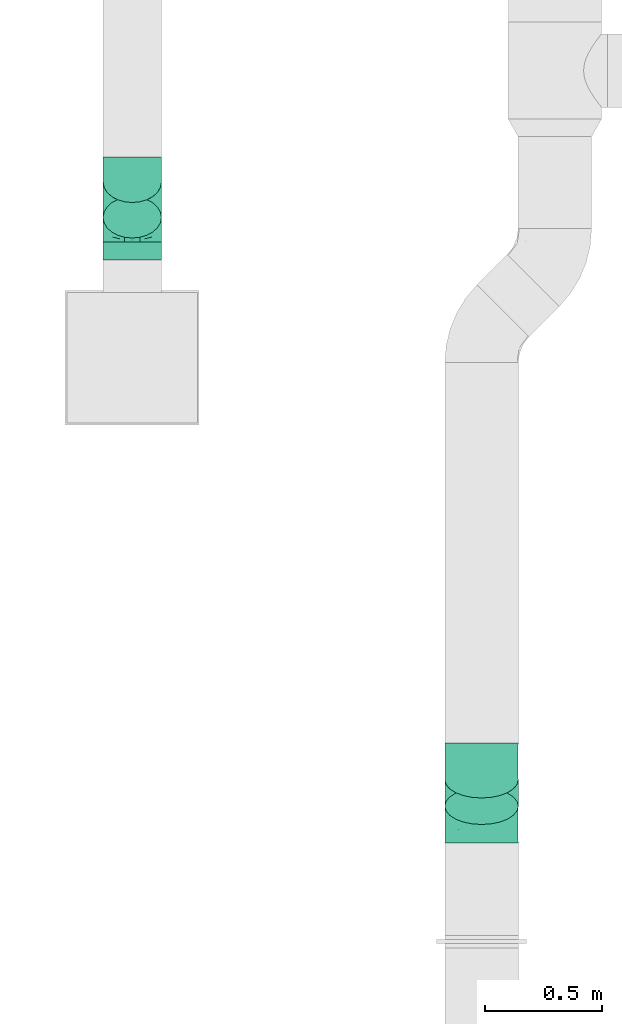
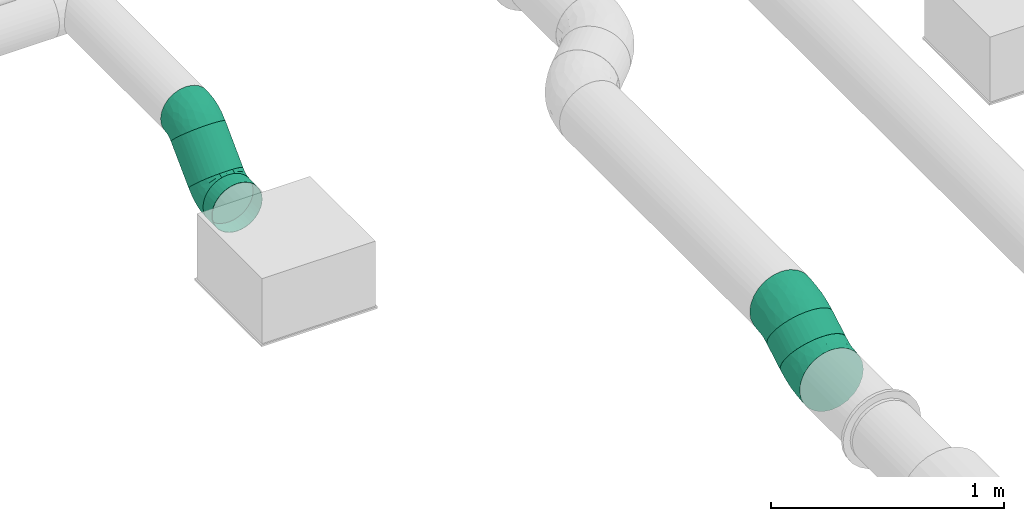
# One storey, part 20 of 63: 4 flow fittings, 3 flow segments.
"""IFC2X3 building model written with IfcOpenShell, lengths in millimetres."""

from ifc_helpers import new_model, entity, si_unit, converted_unit, derived_unit, direction, frame, origin_with_axes, origin_2d_with_axis, place, context, subcontext, project, spatial, hollow_circle, extrude, open_shell, surface_model, source, transform, mapped, type_object, element, save


model = new_model("IFC2X3")

# Units and contexts
model_context = context("Model", 3, precision=0.01, world=frame((0.0, 4.29681676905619e-09, 0.0)), true_north=direction((4.01073788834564e-13, 1.0)))
plan_context = context("Plan", 3, precision=0.01, world=frame((0.0, 4.29681676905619e-09, 0.0)), true_north=direction((4.01073788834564e-13, 1.0)))
body_context = subcontext(model_context, "Body", "Model", "MODEL_VIEW")
ifc_project = project(units=[converted_unit("PLANEANGLEUNIT", "DEGREE", entity("IfcPositiveLengthMeasure", 0.0174532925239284), si_unit("PLANEANGLEUNIT", "RADIAN"), dimensions=[0, 0, 0, 0, 0, 0, 0]), si_unit("AREAUNIT", "SQUARE_METRE"), si_unit("LENGTHUNIT", "METRE", prefix="MILLI"), si_unit("MASSUNIT", "GRAM", prefix="KILO"), si_unit("POWERUNIT", "WATT"), si_unit("PRESSUREUNIT", "PASCAL"), si_unit("FORCEUNIT", "NEWTON", prefix="KILO"), si_unit("ELECTRICVOLTAGEUNIT", "VOLT"), si_unit("ELECTRICCURRENTUNIT", "AMPERE"), si_unit("THERMODYNAMICTEMPERATUREUNIT", "DEGREE_CELSIUS"), si_unit("TIMEUNIT", "SECOND"), si_unit("VOLUMEUNIT", "CUBIC_METRE"), derived_unit("LINEARVELOCITYUNIT", [(si_unit("LENGTHUNIT", "METRE"), 1), (si_unit("TIMEUNIT", "SECOND"), -1)]), derived_unit("VOLUMETRICFLOWRATEUNIT", [(si_unit("VOLUMEUNIT", "CUBIC_METRE"), 1), (si_unit("TIMEUNIT", "SECOND"), -1)]), derived_unit("THERMALTRANSMITTANCEUNIT", [(si_unit("POWERUNIT", "WATT"), 1), (si_unit("THERMODYNAMICTEMPERATUREUNIT", "KELVIN"), -1), (si_unit("AREAUNIT", "SQUARE_METRE"), -1)]), derived_unit("SOUNDPRESSUREUNIT", [(si_unit("PRESSUREUNIT", "PASCAL"), 1)])], contexts=[model_context, plan_context])

# Site, building, storey
site_placement = place(None, frame((0.0, -4.29681676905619e-09, 0.0), z_axis=(0.0, 0.0, 1.0), x_axis=(1.0, 0.0, 0.0)))
site = spatial("IfcSite", under=ifc_project, at=site_placement, CompositionType="ELEMENT")
building_placement = place(site_placement, frame((0.0, 4.29681676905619e-09, 0.0), z_axis=(0.0, 0.0, 1.0), x_axis=(1.0, 0.0, 0.0)))
building = spatial("IfcBuilding", under=site, at=building_placement, Name="mc-building", CompositionType="ELEMENT")
storey_placement = place(building_placement, frame((0.0, 0.0, 210900.0), z_axis=(0.0, 0.0, 1.0), x_axis=(1.0, 0.0, 0.0)))
storey = spatial("IfcBuildingStorey", under=building, at=storey_placement, Name="Nivå F", CompositionType="ELEMENT", Elevation=210900.0)

# Flow fittings
duct_fitting_type_1 = type_object("IfcDuctFittingType", Name="magicirc_elbow_short_001", PredefinedType="BEND")
shared_shape_1 = source(origin_with_axes(), body_context, "Body", "SurfaceModel", [
    surface_model("IfcShellBasedSurfaceModel", [(-62.13204, 0.0, -125.0), (-62.13204, -32.35238, -120.74073), (-62.13204, 32.35238, -120.74073), (-62.13204, 62.5, -108.25318), (-62.13204, 88.38835, -88.38835), (-62.13204, 108.25318, -62.5), (-62.13204, 120.74073, -32.35238), (-62.13204, -62.5, -108.25318), (-62.13204, -88.38835, -88.38835), (-62.13204, -125.0, 0.0), (-62.13204, -108.25318, -62.5), (-62.13204, -120.74073, -32.35238), (-62.13204, 125.0, 0.0), (-62.13204, -120.74073, 32.35238), (-62.13204, 120.74073, 32.35238), (-62.13204, 108.25318, 62.5), (-62.13204, 32.35238, 120.74073), (-62.13204, 62.5, 108.25318), (-62.13204, 88.38835, 88.38835), (-62.13204, -88.38835, 88.38835), (-62.13204, -108.25318, 62.5), (-62.13204, -32.35238, 120.74073), (-62.13204, 0.0, 125.0), (-62.13204, -62.5, 108.25318), (-32.61257, 120.48054, -62.5), (-41.44261, 129.31057, -32.35238), (-44.45436, 132.32233, 0.0), (-41.44261, 129.31057, 32.35238), (-32.61257, 120.48054, 62.5), (-39.32094, -100.77129, 72.52866), (-25.3983, -115.58366, 40.92131), (-9.38975, -99.61313, 67.6303), (-40.71594, 99.20513, 81.38635), (-18.56602, 106.43398, 88.38835), (6.93461, -16.74165, 121.22697), (-29.92798, -19.88945, 122.8817), (-17.69423, -50.99343, 111.83063), (-28.63512, 12.8945, 124.68547), (-43.55871, 45.16564, 117.17454), (-19.1971, 46.34588, 119.14586), (20.11216, -107.05726, 35.36285), (37.22525, -89.79474, 60.1728), (-42.64489, 65.81413, 107.6176), (18.18237, -43.89615, 109.72868), (-48.14682, 116.23669, 52.46898), (11.13029, 29.36587, 124.68547), (-8.4822, -119.71595, 0.0), (17.31186, -111.89141, 0.0), (-27.44697, 77.92943, 103.54984), (-1.13628, 62.73759, 117.17454), (-0.26019, 88.12816, 108.25318), (29.58221, -71.41779, 87.09722), (2.27359, -83.55864, 84.32151), (46.20365, -49.09439, 98.73245), (43.10591, -104.06687, 0.0), (-28.63512, 12.89449, -124.68547), (-29.92797, -19.88945, -122.8817), (11.13029, 29.36586, -124.68547), (-19.1971, 46.34588, -119.14586), (-43.55871, 45.16564, -117.17454), (-35.69649, 74.51237, -103.54983), (-25.3983, -115.58366, -40.92131), (-48.14682, 116.23669, -52.46898), (-39.32094, -100.77129, -72.52866), (-16.38313, 76.69211, -107.6176), (-18.56602, 106.43398, -88.38835), (-0.26019, 88.12816, -108.25318), (-17.69423, -50.99343, -111.83063), (6.93461, -16.74165, -121.22697), (-1.13628, 62.73759, -117.17454), (48.5695, -23.54609, -111.83063), (35.22623, 7.0983, -122.8817), (-9.38975, -99.61313, -67.63031), (2.04406, -67.38589, -98.73245), (29.58221, -71.41778, -87.09723), (43.93399, 43.934, -125.0), (106.43399, -18.56599, 88.38835), (132.32235, -44.45434, 0.0), (21.05739, 66.81058, -120.74073), (88.12817, -0.26017, 108.25318), (66.81057, 21.05741, -120.74073), (106.43399, -18.56599, -88.38835), (88.12817, -0.26017, -108.25318), (129.31058, -41.44258, -32.35238), (120.48055, -32.61255, -62.5), (21.05739, 66.81058, 120.74073), (43.93399, 43.934, 125.0), (129.31058, -41.44258, 32.35238), (120.48055, -32.61255, 62.5), (66.81057, 21.05741, 120.74073), (-31.08246, -121.94188, 0.0), (35.22622, 7.09831, 122.8817), (-25.98217, -78.69805, 94.74512), (-3.43913, -67.17105, 100.02812), (77.07669, -63.79755, 67.6303), (61.9235, -89.5906, 35.66991), (-52.56496, 126.90301, 0.0), (99.68931, -63.77067, 40.92131), (48.5695, -23.54609, 111.83062), (99.06018, -43.45194, 72.52866), (74.0201, -37.27574, 94.74512), (108.20455, -64.2473, 0.0), (90.64979, -78.65413, 0.0), (66.87785, -91.36049, 0.0), (19.56361, -107.13664, -35.66991), (-41.35812, 98.93914, -81.38635), (-25.98217, -78.69805, -94.74512), (61.47949, -89.92235, -35.36285), (18.18239, -43.89616, -109.72867), (57.47721, -60.69254, -84.32152), (74.02009, -37.27574, -94.74513), (77.07669, -63.79755, -67.6303), (37.17223, -89.81669, -60.17279), (99.68931, -63.77066, -40.92131), (99.06018, -43.45194, -72.52866), (49.92893, -45.06527, -100.02812)], [open_shell([[[0, 1, 2]], [[3, 2, 4]], [[1, 5, 2]], [[4, 2, 5]], [[5, 1, 6]], [[7, 8, 1]], [[9, 1, 8]], [[10, 11, 8]], [[9, 8, 11]], [[9, 6, 1]], [[9, 12, 6]], [[12, 13, 14]], [[15, 14, 16]], [[16, 17, 18]], [[15, 16, 18]], [[16, 14, 19]], [[20, 19, 13]], [[19, 14, 13]], [[21, 22, 23]], [[19, 23, 22]], [[19, 22, 16]], [[9, 13, 12]], [[24, 25, 26]], [[26, 27, 28]], [[29, 30, 31]], [[32, 33, 28]], [[30, 20, 13]], [[34, 35, 36]], [[21, 35, 22]], [[21, 23, 36]], [[16, 22, 37]], [[38, 37, 39]], [[31, 40, 41]], [[42, 17, 38]], [[38, 17, 16]], [[43, 34, 36]], [[35, 37, 22]], [[14, 15, 44]], [[42, 32, 18]], [[29, 19, 20]], [[40, 31, 30]], [[37, 45, 39]], [[45, 37, 34]], [[40, 46, 47]], [[42, 18, 17]], [[33, 32, 48]], [[27, 44, 28]], [[48, 39, 49]], [[33, 48, 50]], [[44, 32, 28]], [[18, 32, 15]], [[36, 35, 21]], [[37, 35, 34]], [[41, 51, 52]], [[14, 44, 27]], [[32, 44, 15]], [[37, 38, 16]], [[42, 39, 48]], [[39, 42, 38]], [[42, 48, 32]], [[48, 49, 50]], [[45, 49, 39]], [[30, 29, 20]], [[53, 43, 51]], [[46, 40, 30]], [[47, 54, 40]], [[41, 52, 31]], [[0, 2, 55]], [[56, 1, 0]], [[57, 55, 58]], [[59, 60, 58]], [[10, 61, 11]], [[3, 4, 60]], [[62, 6, 25]], [[61, 10, 63]], [[64, 65, 66]], [[1, 56, 67]], [[8, 63, 10]], [[7, 1, 67]], [[56, 55, 68]], [[25, 24, 62]], [[69, 64, 66]], [[2, 3, 59]], [[59, 55, 2]], [[69, 57, 58]], [[70, 68, 71]], [[55, 57, 68]], [[55, 56, 0]], [[67, 56, 68]], [[57, 71, 68]], [[6, 62, 5]], [[60, 59, 3]], [[55, 59, 58]], [[64, 58, 60]], [[58, 64, 69]], [[61, 63, 72]], [[72, 73, 74]], [[75, 76, 77]], [[66, 26, 78]], [[78, 79, 75]], [[24, 66, 65]], [[66, 24, 26]], [[80, 81, 82]], [[80, 75, 81]], [[81, 83, 84]], [[83, 81, 77]], [[75, 77, 81]], [[26, 28, 50]], [[50, 85, 26]], [[50, 28, 33]], [[26, 85, 86]], [[87, 76, 88]], [[77, 76, 87]], [[79, 86, 89]], [[76, 75, 79]], [[86, 79, 26]], [[78, 26, 79]], [[90, 46, 30]], [[91, 45, 34]], [[23, 92, 36]], [[52, 93, 92]], [[94, 41, 95]], [[23, 19, 92]], [[96, 14, 27]], [[40, 95, 41]], [[96, 12, 14]], [[94, 95, 97]], [[40, 54, 95]], [[98, 89, 91]], [[99, 88, 76]], [[89, 98, 79]], [[88, 99, 97]], [[88, 97, 87]], [[98, 100, 79]], [[53, 94, 100]], [[97, 101, 87]], [[85, 50, 49]], [[41, 94, 51]], [[30, 13, 90]], [[26, 96, 27]], [[95, 102, 97]], [[95, 54, 103]], [[86, 91, 89]], [[86, 85, 45]], [[45, 85, 49]], [[34, 43, 98]], [[29, 92, 19]], [[79, 100, 76]], [[52, 92, 31]], [[95, 103, 102]], [[53, 100, 98]], [[99, 100, 94]], [[45, 91, 86]], [[98, 91, 34]], [[13, 9, 90]], [[101, 97, 102]], [[101, 77, 87]], [[92, 29, 31]], [[100, 99, 76]], [[97, 99, 94]], [[93, 36, 92]], [[51, 43, 93]], [[51, 93, 52]], [[43, 36, 93]], [[43, 53, 98]], [[94, 53, 51]], [[104, 46, 61]], [[78, 75, 57]], [[4, 105, 60]], [[73, 72, 106]], [[80, 82, 70]], [[61, 90, 11]], [[83, 77, 101]], [[106, 7, 67]], [[107, 102, 103]], [[104, 54, 47]], [[72, 104, 61]], [[106, 8, 7]], [[68, 108, 67]], [[6, 12, 96]], [[109, 110, 111]], [[96, 26, 25]], [[112, 72, 74]], [[113, 83, 101]], [[82, 81, 110]], [[113, 84, 83]], [[64, 105, 65]], [[4, 5, 105]], [[114, 81, 84]], [[110, 109, 115]], [[70, 82, 110]], [[66, 78, 69]], [[75, 80, 71]], [[111, 114, 113]], [[108, 68, 70]], [[113, 101, 102]], [[107, 104, 112]], [[107, 111, 113]], [[111, 107, 112]], [[71, 57, 75]], [[104, 47, 46]], [[96, 25, 6]], [[114, 110, 81]], [[107, 54, 104]], [[73, 106, 67]], [[63, 106, 72]], [[62, 105, 5]], [[65, 105, 24]], [[70, 71, 80]], [[90, 61, 46]], [[90, 9, 11]], [[72, 112, 104]], [[112, 74, 109]], [[105, 62, 24]], [[57, 69, 78]], [[64, 60, 105]], [[113, 114, 84]], [[110, 114, 111]], [[106, 63, 8]], [[115, 70, 110]], [[73, 108, 74]], [[102, 107, 113]], [[103, 54, 107]], [[112, 109, 111]], [[74, 108, 115]], [[74, 115, 109]], [[108, 70, 115]], [[108, 73, 67]]])]),
])
flow_fitting_1_placement = place(storey_placement, frame((526901.29276, 451341.47303, 3960.01264), z_axis=(0.999999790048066, -0.000647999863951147, 0.0), x_axis=(0.000647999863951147, 0.999999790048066, 0.0)))
element("IfcFlowFitting", 1, at=flow_fitting_1_placement, inside=storey, type_object=duct_fitting_type_1, Name="magicirc_elbow_short_001", context=body_context, shape_type="MappedRepresentation", body=[
    mapped(shared_shape_1, transform((0.0, 0.0, 0.0), scale=1.0)),
])
shared_shape_2 = source(origin_with_axes(), body_context, "Body", "SurfaceModel", [
    surface_model("IfcShellBasedSurfaceModel", [(-62.13204, 0.0, -125.0), (-62.13204, -32.35238, -120.74073), (-62.13204, 32.35238, -120.74073), (-62.13204, 62.5, -108.25318), (-62.13204, 88.38835, -88.38835), (-62.13204, 108.25318, -62.5), (-62.13204, 120.74073, -32.35238), (-62.13204, -62.5, -108.25318), (-62.13204, -88.38835, -88.38835), (-62.13204, -125.0, 0.0), (-62.13204, -108.25318, -62.5), (-62.13204, -120.74073, -32.35238), (-62.13204, 125.0, 0.0), (-62.13204, -120.74073, 32.35238), (-62.13204, 120.74073, 32.35238), (-62.13204, 108.25318, 62.5), (-62.13204, 32.35238, 120.74073), (-62.13204, 62.5, 108.25318), (-62.13204, 88.38835, 88.38835), (-62.13204, -88.38835, 88.38835), (-62.13204, -108.25318, 62.5), (-62.13204, -32.35238, 120.74073), (-62.13204, 0.0, 125.0), (-62.13204, -62.5, 108.25318), (-32.61257, 120.48054, -62.5), (-41.44261, 129.31057, -32.35238), (-44.45436, 132.32233, 0.0), (-41.44261, 129.31057, 32.35238), (-32.61257, 120.48054, 62.5), (-39.32094, -100.77129, 72.52866), (-25.3983, -115.58366, 40.92131), (-9.38975, -99.61313, 67.6303), (-40.71594, 99.20513, 81.38635), (-18.56602, 106.43398, 88.38835), (6.93461, -16.74165, 121.22697), (-29.92798, -19.88945, 122.8817), (-17.69423, -50.99343, 111.83063), (-28.63512, 12.8945, 124.68547), (-43.55871, 45.16564, 117.17454), (-19.1971, 46.34588, 119.14586), (20.11216, -107.05726, 35.36285), (37.22525, -89.79474, 60.1728), (-42.64489, 65.81413, 107.6176), (18.18237, -43.89615, 109.72868), (-48.14682, 116.23669, 52.46898), (11.13029, 29.36587, 124.68547), (-8.4822, -119.71595, 0.0), (17.31186, -111.89141, 0.0), (-27.44697, 77.92943, 103.54984), (-1.13628, 62.73759, 117.17454), (-0.26019, 88.12816, 108.25318), (29.58221, -71.41779, 87.09722), (2.27359, -83.55864, 84.32151), (46.20365, -49.09439, 98.73245), (43.10591, -104.06687, 0.0), (-28.63512, 12.89449, -124.68547), (-29.92797, -19.88945, -122.8817), (11.13029, 29.36586, -124.68547), (-19.1971, 46.34588, -119.14586), (-43.55871, 45.16564, -117.17454), (-35.69649, 74.51237, -103.54983), (-25.3983, -115.58366, -40.92131), (-48.14682, 116.23669, -52.46898), (-39.32094, -100.77129, -72.52866), (-16.38313, 76.69211, -107.6176), (-18.56602, 106.43398, -88.38835), (-0.26019, 88.12816, -108.25318), (-17.69423, -50.99343, -111.83063), (6.93461, -16.74165, -121.22697), (-1.13628, 62.73759, -117.17454), (48.5695, -23.54609, -111.83063), (35.22623, 7.0983, -122.8817), (-9.38975, -99.61313, -67.63031), (2.04406, -67.38589, -98.73245), (29.58221, -71.41778, -87.09723), (43.93399, 43.934, -125.0), (106.43399, -18.56599, 88.38835), (132.32235, -44.45434, 0.0), (21.05739, 66.81058, -120.74073), (88.12817, -0.26017, 108.25318), (66.81057, 21.05741, -120.74073), (106.43399, -18.56599, -88.38835), (88.12817, -0.26017, -108.25318), (129.31058, -41.44258, -32.35238), (120.48055, -32.61255, -62.5), (21.05739, 66.81058, 120.74073), (43.93399, 43.934, 125.0), (129.31058, -41.44258, 32.35238), (120.48055, -32.61255, 62.5), (66.81057, 21.05741, 120.74073), (-31.08246, -121.94188, 0.0), (35.22622, 7.09831, 122.8817), (77.07669, -63.79755, 67.6303), (61.9235, -89.5906, 35.66991), (-52.56496, 126.90301, 0.0), (99.68931, -63.77067, 40.92131), (48.5695, -23.54609, 111.83062), (99.06018, -43.45194, 72.52866), (74.0201, -37.27574, 94.74512), (108.20455, -64.2473, 0.0), (90.64979, -78.65413, 0.0), (66.87785, -91.36049, 0.0), (-3.43913, -67.17105, 100.02812), (19.56361, -107.13664, -35.66991), (-41.35812, 98.93914, -81.38635), (-25.98217, -78.69805, -94.74512), (61.47949, -89.92235, -35.36285), (18.18239, -43.89616, -109.72867), (57.47721, -60.69254, -84.32152), (74.02009, -37.27574, -94.74513), (77.07669, -63.79755, -67.6303), (37.17223, -89.81669, -60.17279), (99.68931, -63.77066, -40.92131), (99.06018, -43.45194, -72.52866), (49.92893, -45.06527, -100.02812), (-25.98217, -78.69805, 94.74512)], [open_shell([[[0, 1, 2]], [[3, 2, 4]], [[1, 5, 2]], [[4, 2, 5]], [[5, 1, 6]], [[7, 8, 1]], [[9, 1, 8]], [[10, 11, 8]], [[9, 8, 11]], [[9, 6, 1]], [[9, 12, 6]], [[12, 13, 14]], [[15, 14, 16]], [[16, 17, 18]], [[15, 16, 18]], [[16, 14, 19]], [[20, 19, 13]], [[19, 14, 13]], [[21, 22, 23]], [[19, 23, 22]], [[19, 22, 16]], [[9, 13, 12]], [[24, 25, 26]], [[26, 27, 28]], [[29, 30, 31]], [[32, 33, 28]], [[30, 20, 13]], [[34, 35, 36]], [[21, 35, 22]], [[21, 23, 36]], [[16, 22, 37]], [[38, 37, 39]], [[31, 40, 41]], [[42, 17, 38]], [[38, 17, 16]], [[43, 34, 36]], [[35, 37, 22]], [[14, 15, 44]], [[42, 32, 18]], [[29, 19, 20]], [[40, 31, 30]], [[37, 45, 39]], [[45, 37, 34]], [[40, 46, 47]], [[42, 18, 17]], [[33, 32, 48]], [[27, 44, 28]], [[48, 39, 49]], [[33, 48, 50]], [[44, 32, 28]], [[18, 32, 15]], [[36, 35, 21]], [[37, 35, 34]], [[41, 51, 52]], [[14, 44, 27]], [[32, 44, 15]], [[37, 38, 16]], [[42, 39, 48]], [[39, 42, 38]], [[42, 48, 32]], [[48, 49, 50]], [[45, 49, 39]], [[30, 29, 20]], [[53, 43, 51]], [[46, 40, 30]], [[47, 54, 40]], [[41, 52, 31]], [[0, 2, 55]], [[56, 1, 0]], [[57, 55, 58]], [[59, 60, 58]], [[10, 61, 11]], [[3, 4, 60]], [[62, 6, 25]], [[61, 10, 63]], [[64, 65, 66]], [[1, 56, 67]], [[8, 63, 10]], [[7, 1, 67]], [[56, 55, 68]], [[25, 24, 62]], [[69, 64, 66]], [[2, 3, 59]], [[59, 55, 2]], [[69, 57, 58]], [[70, 68, 71]], [[55, 57, 68]], [[55, 56, 0]], [[67, 56, 68]], [[57, 71, 68]], [[6, 62, 5]], [[60, 59, 3]], [[55, 59, 58]], [[64, 58, 60]], [[58, 64, 69]], [[61, 63, 72]], [[72, 73, 74]], [[75, 76, 77]], [[66, 26, 78]], [[78, 79, 75]], [[24, 66, 65]], [[66, 24, 26]], [[80, 81, 82]], [[80, 75, 81]], [[81, 83, 84]], [[83, 81, 77]], [[75, 77, 81]], [[26, 28, 50]], [[50, 85, 26]], [[50, 28, 33]], [[26, 85, 86]], [[87, 76, 88]], [[77, 76, 87]], [[79, 86, 89]], [[76, 75, 79]], [[86, 79, 26]], [[78, 26, 79]], [[90, 46, 30]], [[91, 45, 34]], [[92, 41, 93]], [[94, 14, 27]], [[40, 93, 41]], [[94, 12, 14]], [[92, 93, 95]], [[40, 54, 93]], [[96, 89, 91]], [[97, 88, 76]], [[89, 96, 79]], [[88, 97, 95]], [[88, 95, 87]], [[96, 98, 79]], [[53, 92, 98]], [[95, 99, 87]], [[85, 50, 49]], [[41, 92, 51]], [[30, 13, 90]], [[26, 94, 27]], [[93, 100, 95]], [[93, 54, 101]], [[86, 91, 89]], [[86, 85, 45]], [[45, 85, 49]], [[34, 43, 96]], [[79, 98, 76]], [[93, 101, 100]], [[53, 98, 96]], [[97, 98, 92]], [[45, 91, 86]], [[96, 91, 34]], [[13, 9, 90]], [[99, 95, 100]], [[99, 77, 87]], [[98, 97, 76]], [[95, 97, 92]], [[51, 43, 102]], [[51, 102, 52]], [[43, 36, 102]], [[43, 53, 96]], [[92, 53, 51]], [[103, 46, 61]], [[78, 75, 57]], [[4, 104, 60]], [[73, 72, 105]], [[80, 82, 70]], [[61, 90, 11]], [[83, 77, 99]], [[105, 7, 67]], [[106, 100, 101]], [[103, 54, 47]], [[72, 103, 61]], [[105, 8, 7]], [[68, 107, 67]], [[6, 12, 94]], [[108, 109, 110]], [[94, 26, 25]], [[111, 72, 74]], [[112, 83, 99]], [[82, 81, 109]], [[112, 84, 83]], [[64, 104, 65]], [[4, 5, 104]], [[113, 81, 84]], [[109, 108, 114]], [[70, 82, 109]], [[66, 78, 69]], [[75, 80, 71]], [[110, 113, 112]], [[107, 68, 70]], [[112, 99, 100]], [[106, 103, 111]], [[106, 110, 112]], [[110, 106, 111]], [[71, 57, 75]], [[103, 47, 46]], [[94, 25, 6]], [[113, 109, 81]], [[106, 54, 103]], [[73, 105, 67]], [[63, 105, 72]], [[62, 104, 5]], [[65, 104, 24]], [[70, 71, 80]], [[90, 61, 46]], [[90, 9, 11]], [[72, 111, 103]], [[111, 74, 108]], [[104, 62, 24]], [[57, 69, 78]], [[64, 60, 104]], [[112, 113, 84]], [[109, 113, 110]], [[105, 63, 8]], [[114, 70, 109]], [[73, 107, 74]], [[100, 106, 112]], [[101, 54, 106]], [[111, 108, 110]], [[74, 107, 114]], [[74, 114, 108]], [[107, 70, 114]], [[107, 73, 67]], [[23, 115, 36]], [[52, 102, 115]], [[23, 19, 115]], [[29, 115, 19]], [[52, 115, 31]], [[115, 29, 31]], [[102, 36, 115]]])]),
])
flow_fitting_2_placement = place(storey_placement, frame((526901.44821, 451581.46028, 4200.0), z_axis=(-0.999999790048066, 0.000647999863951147, -3.79470760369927e-19), x_axis=(0.000458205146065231, 0.707106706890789, 0.707106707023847)))
element("IfcFlowFitting", 2, at=flow_fitting_2_placement, inside=storey, type_object=duct_fitting_type_1, Name="magicirc_elbow_short_001", context=body_context, shape_type="MappedRepresentation", body=[
    mapped(shared_shape_2, transform((0.0, 0.0, 0.0), scale=1.0)),
])
duct_fitting_type_2 = type_object("IfcDuctFittingType", Name="magicirc_elbow_full_radius_001", PredefinedType="BEND")
shared_shape_3 = source(origin_with_axes(), body_context, "Body", "SurfaceModel", [
    surface_model("IfcShellBasedSurfaceModel", [(-84.404, 78.75, -136.39901), (-84.404, 40.764, -152.13332), (-84.404, 0.0, -157.5), (-84.404, 136.39901, -78.75), (-84.404, -40.764, -152.13332), (-84.404, 111.36932, -111.36932), (-84.404, -157.5, 0.0), (-84.404, -152.13332, 40.764), (-84.404, -111.36932, -111.36932), (-84.404, -152.13332, -40.764), (-84.404, -78.75, -136.39901), (-84.404, -136.39901, -78.75), (-84.404, 152.13332, -40.764), (-84.404, 157.5, 0.0), (-84.404, 152.13332, 40.764), (-84.404, 136.39901, 78.75), (-84.404, 111.36932, 111.36932), (-84.404, 78.75, 136.39901), (-84.404, 40.764, 152.13332), (-84.404, -111.36932, 111.36932), (-84.404, -78.75, 136.39901), (-84.404, -136.39901, 78.75), (-84.404, 0.0, 157.5), (-84.404, -40.764, 152.13332), (73.09601, 42.202, -157.5), (52.71401, 77.50465, -152.13332), (33.721, 110.4015, -136.39901), (4.8965, 160.32701, -78.75), (17.41135, 138.65066, -111.36932), (112.47101, -25.9975, 136.39901), (151.846, -94.197, 0.0), (93.47801, 6.89934, -152.13332), (128.78067, -54.24666, -111.36932), (112.47101, -25.9975, -136.39901), (149.16266, -89.54932, -40.764), (141.29551, -75.923, -78.75), (-2.97065, 173.95332, -40.764), (-5.654, 178.601, 0.0), (17.41135, 138.65066, 111.36932), (-2.97065, 173.95332, 40.764), (4.8965, 160.32701, 78.75), (149.16266, -89.54932, 40.764), (128.78067, -54.24666, 111.36932), (141.29551, -75.923, 78.75), (73.09601, 42.202, 157.5), (93.47801, 6.89934, 152.13332), (89.37925, -92.15066, 92.20703), (-22.73037, -153.45769, 0.0), (-40.59784, -152.51267, 30.28688), (-31.32937, -124.49444, 92.20703), (30.98227, -115.62747, 87.70865), (-20.41785, -95.24437, 121.51269), (-16.0084, -142.62772, 54.66107), (-38.8485, -61.19939, 143.93386), (14.79364, -55.21063, 141.93458), (-28.53977, -20.96656, 155.40896), (-6.27623, 23.42321, 156.95112), (-49.89245, 19.30513, 156.54722), (85.17753, -115.51503, 54.66106), (-37.54999, 60.16585, 147.24833), (4.64344, -147.01213, 24.92468), (-26.40679, 98.55149, 128.60998), (64.24348, -33.57598, 143.93386), (35.19944, -3.8877, 155.40896), (-43.46124, 126.56253, 99.40695), (-40.03698, 149.42004, 64.74038), (-38.5862, 160.63669, 33.11008), (21.76317, -81.22128, 125.47313), (65.30455, -72.27512, 121.51269), (35.57959, -132.78489, 52.24872), (25.10961, 48.25387, 155.22924), (52.71401, 77.50465, 152.13332), (8.22482, 73.66369, 147.0178), (101.8984, -116.27706, 29.05826), (33.721, 110.4015, 136.39901), (64.32541, -131.11503, 26.50225), (-43.64, 162.86668, 0.0), (37.888, -141.39995, 0.0), (96.41393, -121.53308, 0.0), (85.17753, -115.51503, -54.66107), (65.30456, -72.27512, -121.51269), (-45.8725, 29.23427, -155.22926), (-43.95476, 59.68221, -147.0178), (-28.53977, -20.96657, -155.40896), (-25.64273, 131.33699, -99.40695), (21.76318, -81.22129, -125.47312), (30.98229, -115.62747, -87.70864), (-20.41785, -95.24438, -121.51269), (-40.03698, 149.42004, -64.74038), (35.19945, -3.8877, -155.40896), (111.41509, -111.78093, -30.28689), (69.48472, -129.63796, -24.92468), (2.4363, 70.88014, -147.24833), (-46.90172, 158.40855, -33.11008), (-31.32937, -124.49444, -92.20703), (-6.27623, 23.4232, -156.95112), (-30.10807, -151.64808, -29.05826), (89.37925, -92.15067, -92.20703), (35.5796, -132.78488, -52.24872), (9.85007, -145.71165, -26.50225), (-16.00839, -142.62771, -54.66107), (33.55556, 41.66495, -156.54722), (-38.8485, -61.19939, -143.93386), (14.79365, -55.21064, -141.93457), (-26.4068, 98.55149, -128.60998), (64.24348, -33.57598, -143.93386)], [open_shell([[[0, 1, 2]], [[3, 0, 2]], [[4, 3, 2]], [[5, 0, 3]], [[3, 6, 7]], [[8, 9, 10]], [[4, 10, 6]], [[11, 9, 8]], [[6, 10, 9]], [[6, 3, 4]], [[7, 12, 3]], [[13, 7, 14]], [[15, 14, 16]], [[17, 16, 7]], [[7, 16, 14]], [[7, 18, 17]], [[19, 20, 21]], [[7, 21, 22]], [[23, 22, 20]], [[21, 20, 22]], [[22, 18, 7]], [[12, 7, 13]], [[24, 25, 26]], [[27, 26, 28]], [[29, 30, 27]], [[31, 32, 33]], [[32, 34, 35]], [[34, 32, 30]], [[27, 36, 37]], [[38, 39, 40]], [[41, 42, 43]], [[29, 44, 45]], [[42, 46, 43]], [[6, 47, 48]], [[49, 50, 51]], [[7, 52, 21]], [[53, 51, 54]], [[19, 49, 51]], [[22, 23, 55]], [[23, 20, 53]], [[55, 56, 57]], [[20, 19, 51]], [[46, 50, 58]], [[17, 18, 59]], [[52, 48, 60]], [[16, 17, 61]], [[54, 62, 63]], [[15, 64, 65]], [[18, 22, 57]], [[19, 21, 49]], [[54, 63, 55]], [[65, 66, 14]], [[67, 50, 68]], [[13, 14, 66]], [[14, 15, 65]], [[15, 16, 64]], [[61, 17, 59]], [[56, 55, 63]], [[60, 69, 52]], [[53, 55, 23]], [[42, 29, 68]], [[7, 48, 52]], [[41, 43, 58]], [[44, 70, 63]], [[71, 72, 70]], [[41, 73, 30]], [[29, 45, 62]], [[62, 68, 29]], [[74, 38, 61]], [[42, 68, 46]], [[73, 58, 75]], [[50, 52, 69]], [[21, 52, 49]], [[38, 40, 64]], [[57, 59, 18]], [[65, 39, 66]], [[56, 70, 72]], [[76, 66, 37]], [[51, 67, 54]], [[61, 59, 72]], [[50, 46, 68]], [[74, 72, 71]], [[58, 43, 46]], [[40, 65, 64]], [[44, 63, 45]], [[50, 49, 52]], [[16, 61, 64]], [[58, 69, 75]], [[38, 64, 61]], [[40, 39, 65]], [[61, 72, 74]], [[56, 72, 59]], [[51, 53, 20]], [[55, 53, 54]], [[63, 62, 45]], [[68, 62, 54]], [[63, 70, 56]], [[44, 71, 70]], [[55, 57, 22]], [[59, 57, 56]], [[6, 48, 7]], [[60, 48, 47]], [[47, 77, 60]], [[75, 69, 60]], [[75, 60, 77]], [[50, 69, 58]], [[77, 78, 75]], [[73, 75, 78]], [[30, 73, 78]], [[41, 58, 73]], [[50, 67, 51]], [[68, 54, 67]], [[37, 66, 39]], [[66, 76, 13]], [[34, 79, 35]], [[33, 32, 80]], [[81, 1, 82]], [[2, 83, 4]], [[84, 5, 3]], [[85, 86, 87]], [[88, 84, 3]], [[24, 31, 89]], [[0, 82, 1]], [[79, 90, 91]], [[26, 25, 92]], [[93, 88, 12]], [[8, 87, 94]], [[95, 89, 83]], [[6, 9, 96]], [[86, 97, 79]], [[98, 99, 100]], [[27, 28, 84]], [[8, 10, 87]], [[96, 100, 99]], [[101, 92, 25]], [[100, 9, 11]], [[102, 10, 4]], [[8, 94, 11]], [[94, 86, 100]], [[103, 83, 89]], [[13, 76, 93]], [[5, 84, 104]], [[37, 36, 93]], [[35, 79, 97]], [[32, 35, 97]], [[88, 3, 12]], [[0, 5, 104]], [[92, 82, 104]], [[26, 92, 104]], [[102, 87, 10]], [[81, 83, 2]], [[84, 88, 27]], [[34, 90, 79]], [[101, 25, 24]], [[105, 31, 33]], [[28, 26, 104]], [[32, 97, 80]], [[103, 105, 80]], [[86, 79, 98]], [[95, 101, 89]], [[97, 86, 80]], [[103, 102, 83]], [[78, 90, 30]], [[95, 81, 82]], [[36, 27, 88]], [[98, 79, 91]], [[80, 85, 103]], [[105, 89, 31]], [[100, 11, 94]], [[36, 88, 93]], [[28, 104, 84]], [[86, 94, 87]], [[104, 82, 0]], [[95, 82, 92]], [[83, 102, 4]], [[87, 102, 103]], [[80, 105, 33]], [[89, 105, 103]], [[83, 81, 95]], [[2, 1, 81]], [[89, 101, 24]], [[92, 101, 95]], [[30, 90, 34]], [[91, 90, 78]], [[78, 77, 91]], [[99, 98, 91]], [[99, 91, 77]], [[86, 98, 100]], [[77, 47, 99]], [[96, 99, 47]], [[6, 96, 47]], [[9, 100, 96]], [[86, 85, 80]], [[87, 103, 85]], [[13, 93, 12]], [[93, 76, 37]], [[31, 24, 26]], [[31, 26, 27]], [[32, 31, 30]], [[31, 27, 30]], [[27, 39, 38]], [[38, 74, 71]], [[29, 27, 38]], [[71, 44, 38]], [[41, 30, 42]], [[30, 29, 42]], [[38, 44, 29]], [[39, 27, 37]]])]),
])
for number, where, z_axis, x_axis, name in (
    (3, (528399.04312, 449047.89744, 4200.0), (1.0, 0.0, 0.0), (0.0, -1.0, 0.0), "magicirc_elbow_full_radius_001"),
    (4, (528399.04312, 448788.08982, 4050.0), (-1.0, 0.0, 0.0), (0.0, -0.866025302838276, -0.500000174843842), "magicirc_elbow_full_radius_001"),
):
    element("IfcFlowFitting", number, at=place(storey_placement, frame(where, z_axis=z_axis, x_axis=x_axis)), inside=storey, type_object=duct_fitting_type_2, Name=name, context=body_context, shape_type="MappedRepresentation", body=[
        mapped(shared_shape_3, transform((0.0, 0.0, 0.0), scale=1.0)),
    ])

# Flow segments
duct_segment_type_1 = type_object("IfcDuctSegmentType", Name="KK002T - Spiro kanaler, Forsinket stål, korte bend", PredefinedType="RIGIDSEGMENT")
shared_shape_4 = source(origin_with_axes(), body_context, "Body", "SweptSolid", [
    extrude(hollow_circle(Radius=125.0, WallThickness=2.0, at=origin_2d_with_axis()), frame((0.0, 0.0, 0.0), z_axis=(1.0, 0.0, 0.0), x_axis=(0.0, 1.0, 0.0)), (0.0, 0.0, 1.0), 75.7),
])
flow_segment_1_placement = place(storey_placement, frame((526901.20347, 451203.62102, 3960.01264), z_axis=(0.0, 0.0, 1.0), x_axis=(0.000647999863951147, 0.999999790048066, 0.0)))
element("IfcFlowSegment", 5, at=flow_segment_1_placement, inside=storey, type_object=duct_segment_type_1, Name="KK002T - Spiro kanaler, Forsinket stål, korte bend", context=body_context, shape_type="MappedRepresentation", body=[
    mapped(shared_shape_4, transform((0.0, 0.0, 0.0), scale=1.0)),
])
shared_shape_5 = source(origin_with_axes(), body_context, "Body", "SweptSolid", [
    extrude(hollow_circle(Radius=125.0, WallThickness=2.0, at=origin_2d_with_axis()), frame((0.0, 0.0, 0.0), z_axis=(1.0, 0.0, 0.0), x_axis=(0.0, 1.0, 0.0)), (0.0, 0.0, 1.0), 215.1),
])
flow_segment_2_placement = place(storey_placement, frame((526901.32122, 451385.40701, 4003.94662999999), z_axis=(-0.00045799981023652, -0.707106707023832, 0.707106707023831), x_axis=(0.000457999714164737, 0.707106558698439, 0.707106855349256)))
element("IfcFlowSegment", 6, at=flow_segment_2_placement, inside=storey, type_object=duct_segment_type_1, Name="KK002T - Spiro kanaler, Forsinket stål, korte bend", context=body_context, shape_type="MappedRepresentation", body=[
    mapped(shared_shape_5, transform((0.0, 0.0, 0.0), scale=1.0)),
])
duct_segment_type_2 = type_object("IfcDuctSegmentType", Name="Sirkulær kanal", PredefinedType="RIGIDSEGMENT")
shared_shape_6 = source(origin_with_axes(), body_context, "Body", "SweptSolid", [
    extrude(hollow_circle(Radius=157.5, WallThickness=2.0, at=origin_2d_with_axis()), frame((0.0, 0.0, 0.0), z_axis=(1.0, 0.0, 0.0), x_axis=(0.0, 1.0, 0.0)), (0.0, 0.0, 1.0), 131.2),
])
flow_segment_3_placement = place(storey_placement, frame((528399.04312, 448974.80144, 4157.79800000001), z_axis=(0.0, -0.500000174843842, 0.866025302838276), x_axis=(0.0, -0.866025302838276, -0.500000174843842)))
element("IfcFlowSegment", 7, at=flow_segment_3_placement, inside=storey, type_object=duct_segment_type_2, Name="Sirkulær kanal", context=body_context, shape_type="MappedRepresentation", body=[
    mapped(shared_shape_6, transform((0.0, 0.0, 0.0), scale=1.0, scale2=1.0, scale3=1.0, uniform=False)),
])

save(model, "model.ifc")
